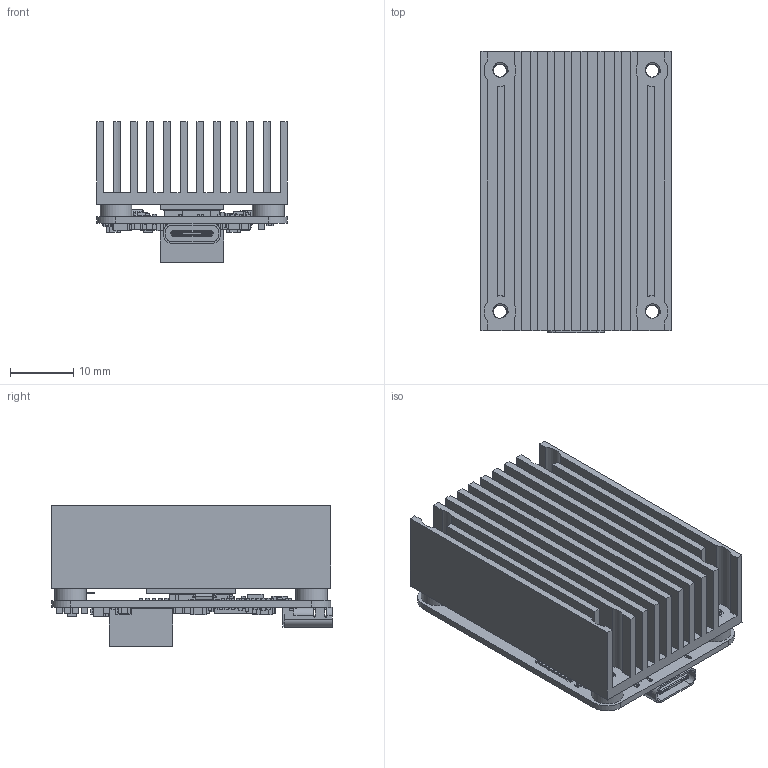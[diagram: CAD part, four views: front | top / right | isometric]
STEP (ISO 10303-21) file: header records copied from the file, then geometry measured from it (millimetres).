
FILE_DESCRIPTION(('Open CASCADE Model'),'2;1');
FILE_NAME('Open CASCADE Shape Model','2021-04-14T15:30:12',('Author'),( 'Open CASCADE'),'Open CASCADE STEP processor 6.8','Open CASCADE 6.8' ,'Unknown');
FILE_SCHEMA(('AUTOMOTIVE_DESIGN { 1 0 10303 214 1 1 1 1 }'));
Length unit declared in the file: millimetre
Products named in the file (345): PCB; Board; Open CASCADE STEP translator 6.8 3.1.1; U9; User_Library-msop-8; R66; 6749079008; Extruded; 6749078848; C85; 6750561264; 6750559664; C61; 6750561104; 6750560944; R2; C82; 6750561504; FB1; 7135153552; 7135153392; L2; 6749075728; 6749075488; U8; 6700446720; U7; 7171683936; U6; User_Library-SOT353-1; U5; 6624740480; R78; R77; R74; 6750560704; 6750560544; R73; R72; R68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
Assembly tree (819 placements, depth 5):
  PCB
    Board
      Open CASCADE STEP translator 6.8 3.1.1
    U9
      User_Library-msop-8
    R66
      6749079008  x2
        Extruded
      6749078848
        Extruded
    C85
      6750561264
        Extruded
      6750559664  x2
        Extruded
    C61
      6750561104
        Extruded
      6750560944  x2
        Extruded
    R2
      6749079008  x2
        Extruded
      6749078848
        Extruded
    C82
      6750561504  x2
        Extruded
      6750561264
        Extruded
    FB1
      7135153552
        Extruded
      7135153392  x2
        Extruded
    L2
      6749075728  x2
        Extruded
      6749075488
        Extruded
    U8
      6700446720
        Extruded
    U7
      7171683936
        Extruded
    U6
      User_Library-SOT353-1
    U5
      6624740480
        Extruded
    R78
      6749079008  x2
        Extruded
      6749078848
        Extruded
    R77
      6749079008  x2
        Extruded
      6749078848
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Bounding box: 30 x 44.27 x 22.18 mm (x, y, z)
Volume: 11020 mm3; surface area: 20362.9 mm2
Topology: 588 solids, 590 shells, 5327 faces, 12234 edges, 8244 vertices
Faces by surface type: plane 4738, cylinder 502, bspline 43, cone 22, sphere 14, torus 8
Full cylindrical faces by diameter (mm): 0.203 x8, 0.7 x2, 2.075 x16, 2.1 x2, 2.58 x12, 2.75 x4, 5 x4
Entity records: 94964 total; most frequent: CARTESIAN_POINT 21240, DIRECTION 13408, ORIENTED_EDGE 12544, EDGE_CURVE 6273, LINE 5244, VECTOR 5244, VERTEX_POINT 4106, AXIS2_PLACEMENT_3D 4082
